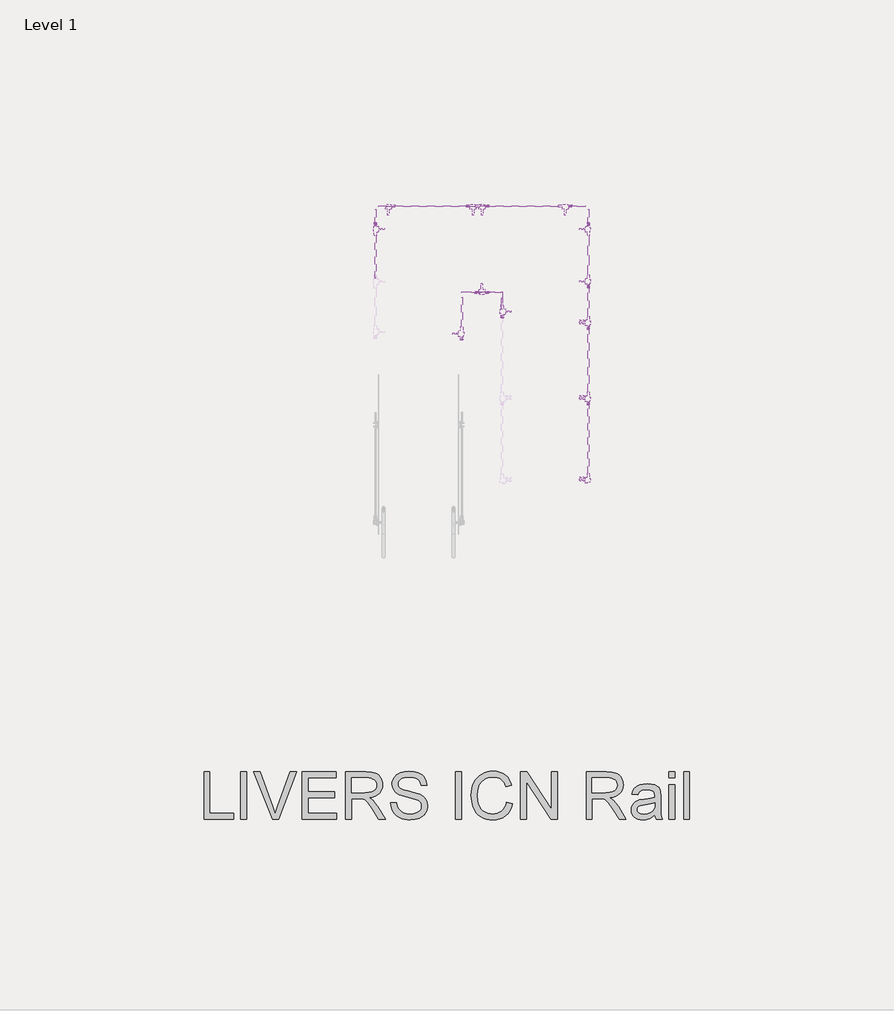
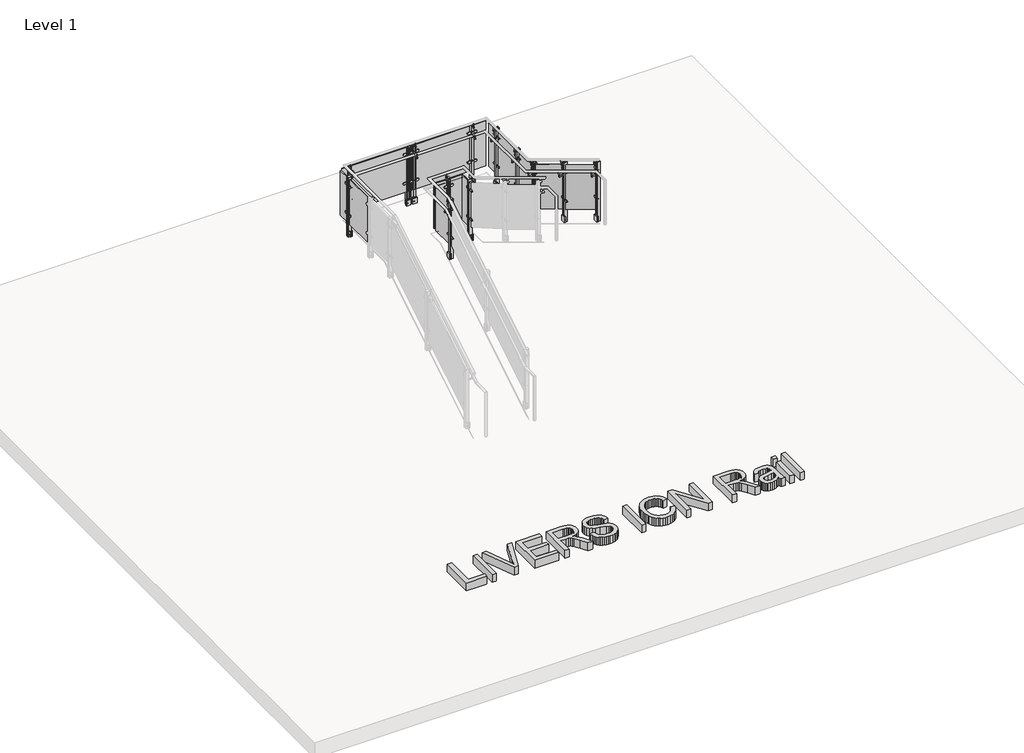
# One storey, part 2 of 2: 18 proxies.
"""IFC4 building model written with IfcOpenShell, lengths in millimetres."""

from ifc_helpers import new_model, si_unit, origin, origin_with_axes, place, context, project, spatial, polyline, outline, extrude, transform, mapped, element, save
from components import building_element_proxy_cf4448e7, building_element_proxy_ce7cafca, building_element_proxy_dbcacdc5, building_element_proxy_7167c951, building_element_proxy_159b8cce, building_element_proxy_f6dfaf89, building_element_proxy_994b1a2f, building_element_proxy_2015c6e3, building_element_proxy_9afc2005, building_element_proxy_c150a887, building_element_proxy_dcb49e08, building_element_proxy_6c2d3cb4, building_element_proxy_b0592f50, building_element_proxy_ea71b500, building_element_proxy_5a8c780e, building_element_proxy_f1ad55b6, building_element_proxy_80f81ed7, building_element_proxy_1b5f86b6, building_element_proxy_7817a10f

model = new_model("IFC4")

# Units and contexts
model_context = context("Model", 3, world=origin())
ifc_project = project(units=[si_unit("LENGTHUNIT", "METRE", prefix="MILLI")], contexts=[model_context])

# Site, building, storey
site = spatial("IfcSite", under=ifc_project)
building = spatial("IfcBuilding", under=site)
storey = spatial("IfcBuildingStorey", under=building, Name="Level 1", Elevation=0.0)

# Proxies
placement = place(None, origin())
building_element_proxy_shape = building_element_proxy_cf4448e7(model_context)
element("IfcBuildingElementProxy", 1, Name="LIVERS_ICN - Glass Panel : LIVERS_ICN - Glass Panel", ObjectType="LIVERS_ICN - Glass Panel : LIVERS_ICN - Glass Panel", at=placement, inside=storey, context=model_context, shape_type="MappedRepresentation", body=[
    mapped(building_element_proxy_shape, transform((31793.4848834, -9750.5450361, 1680.6127155), x_axis=(-1.0, 0.0, 0.0), y_axis=(0.0, -1.0, 0.0), z_axis=(0.0, 0.0, 1.0))),
])
building_element_proxy_2_shape = building_element_proxy_ce7cafca(model_context)
element("IfcBuildingElementProxy", 2, Name="LIVERS_ICN - Glass Panel : LIVERS_ICN - Glass Panel", ObjectType="LIVERS_ICN - Glass Panel : LIVERS_ICN - Glass Panel", at=placement, inside=storey, context=model_context, shape_type="MappedRepresentation", body=[
    mapped(building_element_proxy_2_shape, transform((31312.1560196, -10503.6773073, 1680.6127155), x_axis=(0.0, 1.0, 0.0), y_axis=(-1.0, 0.0, 0.0), z_axis=(0.0, 0.0, 1.0))),
])
building_element_proxy_3_shape = building_element_proxy_dbcacdc5(model_context)
element("IfcBuildingElementProxy", 3, Name="LIVERS_ICN - Glass Panel : LIVERS_ICN - Glass Panel", ObjectType="LIVERS_ICN - Glass Panel : LIVERS_ICN - Glass Panel", at=placement, inside=storey, context=model_context, shape_type="MappedRepresentation", body=[
    mapped(building_element_proxy_3_shape, transform((29702.5380155, -9450.042295, 1680.6127155), x_axis=(0.0, 1.0, 0.0), y_axis=(-1.0, 0.0, 0.0), z_axis=(0.0, 0.0, 1.0))),
])
building_element_proxy_4_shape = building_element_proxy_7167c951(model_context)
element("IfcBuildingElementProxy", 4, Name="LIVERS_ICN - Glass Panel : LIVERS_ICN - Glass Panel", ObjectType="LIVERS_ICN - Glass Panel : LIVERS_ICN - Glass Panel", at=placement, inside=storey, context=model_context, shape_type="MappedRepresentation", body=[
    mapped(building_element_proxy_4_shape, transform((29173.8470175, -8734.5450361, 1680.6127155), x_axis=(1.0, 0.0, 0.0), y_axis=(0.0, 1.0, 0.0), z_axis=(0.0, 0.0, 1.0))),
])
building_element_proxy_5_shape = building_element_proxy_159b8cce(model_context)
element("IfcBuildingElementProxy", 5, Name="LIVERS_ICN - Glass Panel : LIVERS_ICN - Glass Panel", ObjectType="LIVERS_ICN - Glass Panel : LIVERS_ICN - Glass Panel", at=placement, inside=storey, context=model_context, shape_type="MappedRepresentation", body=[
    mapped(building_element_proxy_5_shape, transform((31586.8470175, -8734.5450361, 1680.6127155), x_axis=(1.0, 0.0, 0.0), y_axis=(0.0, 1.0, 0.0), z_axis=(0.0, 0.0, 1.0))),
])
building_element_proxy_6_shape = building_element_proxy_f6dfaf89(model_context)
element("IfcBuildingElementProxy", 6, Name="LIVERS_ICN - Glass Panel : LIVERS_ICN - Glass Panel", ObjectType="LIVERS_ICN - Glass Panel : LIVERS_ICN - Glass Panel", at=placement, inside=storey, context=model_context, shape_type="MappedRepresentation", body=[
    mapped(building_element_proxy_6_shape, transform((32328.1560196, -8245.3529426, 1680.6127155), x_axis=(0.0, -1.0, 0.0), y_axis=(1.0, 0.0, 0.0), z_axis=(0.0, 0.0, 1.0))),
])
building_element_proxy_7_shape = building_element_proxy_994b1a2f(model_context)
building_element_proxy_8_shape = building_element_proxy_2015c6e3(model_context)
element("IfcBuildingElementProxy", 7, Name="LIVERS_ICN - Glass Panel : LIVERS_ICN - Glass Panel", ObjectType="LIVERS_ICN - Glass Panel : LIVERS_ICN - Glass Panel", at=placement, inside=storey, context=model_context, shape_type="MappedRepresentation", body=[
    mapped(building_element_proxy_7_shape, transform((29826.7870792, -8734.5450361, 1680.6127155), x_axis=(1.0, 0.0, 0.0), y_axis=(0.0, 1.0, 0.0), z_axis=(0.0, 0.0, 1.0))),
    mapped(building_element_proxy_8_shape, transform((29826.7870792, -8734.5450361, 1680.6127155), x_axis=(1.0, 0.0, 0.0), y_axis=(0.0, 1.0, 0.0), z_axis=(0.0, 0.0, 1.0))),
])
building_element_proxy_9_shape = building_element_proxy_9afc2005(model_context)
element("IfcBuildingElementProxy", 8, Name="LIVERS_ICN - Glass Panel : LIVERS_ICN - Glass Panel", ObjectType="LIVERS_ICN - Glass Panel : LIVERS_ICN - Glass Panel", at=placement, inside=storey, context=model_context, shape_type="MappedRepresentation", body=[
    mapped(building_element_proxy_9_shape, transform((31624.9470175, -9750.5450361, 1680.6127155), x_axis=(-1.0, 0.0, 0.0), y_axis=(0.0, -1.0, 0.0), z_axis=(0.0, 0.0, 1.0))),
])
element("IfcBuildingElementProxy", 9, Name="LIVERS_ICN - Glass Panel : LIVERS_ICN - Glass Panel", ObjectType="LIVERS_ICN - Glass Panel : LIVERS_ICN - Glass Panel", at=placement, inside=storey, context=model_context, shape_type="MappedRepresentation", body=[
    mapped(building_element_proxy_9_shape, transform((31312.1560196, -10503.2065165, 1680.6127155), x_axis=(0.0, 1.0, 0.0), y_axis=(-1.0, 0.0, 0.0), z_axis=(0.0, 0.0, 1.0))),
])
building_element_proxy_10_shape = building_element_proxy_c150a887(model_context)
element("IfcBuildingElementProxy", 10, Name="LIVERS_ICN - Glass Panel : LIVERS_ICN - Glass Panel", ObjectType="LIVERS_ICN - Glass Panel : LIVERS_ICN - Glass Panel", at=placement, inside=storey, context=model_context, shape_type="MappedRepresentation", body=[
    mapped(building_element_proxy_10_shape, transform((31516.9970175, -9750.5450361, 1680.6127155), x_axis=(-1.0, 0.0, 0.0), y_axis=(0.0, -1.0, 0.0), z_axis=(0.0, 0.0, 1.0))),
])
building_element_proxy_11_shape = building_element_proxy_dcb49e08(model_context)
element("IfcBuildingElementProxy", 11, Name="LIVERS_ICN - Glass Panel : LIVERS_ICN - Glass Panel", ObjectType="LIVERS_ICN - Glass Panel : LIVERS_ICN - Glass Panel", at=placement, inside=storey, context=model_context, shape_type="MappedRepresentation", body=[
    mapped(building_element_proxy_11_shape, transform((30718.5380155, -9519.1808052, 1680.6127155), x_axis=(0.0, -1.0, 0.0), y_axis=(1.0, 0.0, 0.0), z_axis=(0.0, 0.0, 1.0))),
])
building_element_proxy_12_shape = building_element_proxy_6c2d3cb4(model_context)
element("IfcBuildingElementProxy", 12, Name="LIVERS_ICN - Glass Panel : LIVERS_ICN - Glass Panel", ObjectType="LIVERS_ICN - Glass Panel : LIVERS_ICN - Glass Panel", at=placement, inside=storey, context=model_context, shape_type="MappedRepresentation", body=[
    mapped(building_element_proxy_12_shape, transform((29702.5380155, -9725.7679028, 1680.6127155), x_axis=(0.0, 1.0, 0.0), y_axis=(-1.0, 0.0, 0.0), z_axis=(0.0, 0.0, 1.0))),
])
building_element_proxy_13_shape = building_element_proxy_b0592f50(model_context)
element("IfcBuildingElementProxy", 13, Name="LIVERS_ICN - Glass Panel : LIVERS_ICN - Glass Panel", ObjectType="LIVERS_ICN - Glass Panel : LIVERS_ICN - Glass Panel", at=placement, inside=storey, context=model_context, shape_type="MappedRepresentation", body=[
    mapped(building_element_proxy_13_shape, transform((32328.1560196, -10953.8956035, 2589.3229662), x_axis=(0.0, -1.0, 0.0), y_axis=(1.0, 0.0, 0.0), z_axis=(0.0, 0.0, 1.0))),
])
building_element_proxy_14_shape = building_element_proxy_ea71b500(model_context)
element("IfcBuildingElementProxy", 14, Name="LIVERS_ICN - Glass Panel : LIVERS_ICN - Glass Panel", ObjectType="LIVERS_ICN - Glass Panel : LIVERS_ICN - Glass Panel", at=placement, inside=storey, context=model_context, shape_type="MappedRepresentation", body=[
    mapped(building_element_proxy_14_shape, transform((32328.1560196, -10106.5123662, 2075.7573678), x_axis=(0.0, -1.0, 0.0), y_axis=(1.0, 0.0, 0.0), z_axis=(0.0, 0.0, 1.0))),
])
building_element_proxy_15_shape = building_element_proxy_5a8c780e(model_context)
element("IfcBuildingElementProxy", 15, Name="LIVERS_ICN - Glass Panel : LIVERS_ICN - Glass Panel", ObjectType="LIVERS_ICN - Glass Panel : LIVERS_ICN - Glass Panel", at=placement, inside=storey, context=model_context, shape_type="MappedRepresentation", body=[
    mapped(building_element_proxy_15_shape, transform((32328.1560196, -9351.8209311, 1680.6127155), x_axis=(0.0, -1.0, 0.0), y_axis=(1.0, 0.0, 0.0), z_axis=(0.0, 0.0, 1.0))),
])
building_element_proxy_16_shape = building_element_proxy_f1ad55b6(model_context)
building_element_proxy_17_shape = building_element_proxy_80f81ed7(model_context)
element("IfcBuildingElementProxy", 16, Name="LIVERS_ICN - Glass Panel : LIVERS_ICN - Glass Panel", ObjectType="LIVERS_ICN - Glass Panel : LIVERS_ICN - Glass Panel", at=placement, inside=storey, context=model_context, shape_type="MappedRepresentation", body=[
    mapped(building_element_proxy_16_shape, transform((32328.1560196, -8728.5652656, 1680.6127155), x_axis=(0.0, -1.0, 0.0), y_axis=(1.0, 0.0, 0.0), z_axis=(0.0, 0.0, 1.0))),
    mapped(building_element_proxy_17_shape, transform((32328.1560196, -8728.5652656, 1680.6127155), x_axis=(0.0, -1.0, 0.0), y_axis=(1.0, 0.0, 0.0), z_axis=(0.0, 0.0, 1.0))),
])
building_element_proxy_18_shape = building_element_proxy_1b5f86b6(model_context)
building_element_proxy_19_shape = building_element_proxy_7817a10f(model_context)
element("IfcBuildingElementProxy", 17, Name="LIVERS_ICN - Glass Panel : LIVERS_ICN - Glass Panel", ObjectType="LIVERS_ICN - Glass Panel : LIVERS_ICN - Glass Panel", at=placement, inside=storey, context=model_context, shape_type="MappedRepresentation", body=[
    mapped(building_element_proxy_18_shape, transform((30855.4870792, -8734.5450361, 1680.6127155), x_axis=(1.0, 0.0, 0.0), y_axis=(0.0, 1.0, 0.0), z_axis=(0.0, 0.0, 1.0))),
    mapped(building_element_proxy_19_shape, transform((30855.4870792, -8734.5450361, 1680.6127155), x_axis=(1.0, 0.0, 0.0), y_axis=(0.0, 1.0, 0.0), z_axis=(0.0, 0.0, 1.0))),
])
element("IfcBuildingElementProxy", 18, Name="24\" Arial", ObjectType="24\" Arial", at=placement, inside=storey, context=model_context, shape_type="SweptSolid", body=[
    extrude(outline(polyline([(27482.9841583, -16480.0816777), (27482.9841583, -15879.8601392), (27558.0118506, -15879.8601392), (27558.0118506, -16405.0539854), (27858.1226198, -16405.0539854), (27858.1226198, -16480.0816777), (27482.9841583, -16480.0816777)])), origin_with_axes(), (0.0, 0.0, 1.0), 152.4),
    extrude(outline(polyline([(27951.9072352, -16480.0816777), (27951.9072352, -15879.8601392), (28026.9349275, -15879.8601392), (28026.9349275, -16480.0816777), (27951.9072352, -16480.0816777)])), origin_with_axes(), (0.0, 0.0, 1.0), 152.4),
    extrude(outline(polyline([(28354.3018506, -16480.0816777), (28115.4441583, -15879.8601392), (28195.7472352, -15879.8601392), (28355.6206967, -16312.2951392), (28388.0056967, -16409.7432161), (28419.9510813, -16312.2951392), (28580.2641583, -15879.8601392), (28660.5672352, -15879.8601392), (28431.8206967, -16480.0816777), (28354.3018506, -16480.0816777)])), origin_with_axes(), (0.0, 0.0, 1.0), 152.4),
    extrude(outline(polyline([(28730.3195429, -16480.0816777), (28730.3195429, -15879.8601392), (29161.7287737, -15879.8601392), (29161.7287737, -15954.8878315), (28805.3472352, -15954.8878315), (28805.3472352, -16133.0786007), (29142.9718506, -16133.0786007), (29142.9718506, -16208.106293), (28805.3472352, -16208.106293), (28805.3472352, -16405.0539854), (29171.1072352, -16405.0539854), (29171.1072352, -16480.0816777), (28730.3195429, -16480.0816777)])), origin_with_axes(), (0.0, 0.0, 1.0), 152.4),
    extrude(outline(polyline([(29283.6487737, -16480.0816777), (29283.6487737, -15879.8601392), (29542.2891583, -15879.8601392), (29611.803341, -15883.9082642), (29662.3774275, -15896.0526392), (29681.8945188, -15905.7058604), (29699.3417544, -15918.4730238), (29714.7191342, -15934.3541296), (29728.0266583, -15953.3491777), (29738.7651799, -15974.4369781), (29746.4355525, -15996.5963411), (29751.0377761, -16019.8272666), (29752.5718506, -16044.1297546), (29750.0303241, -16074.9577834), (29742.4057448, -16103.2580238), (29729.6981126, -16129.0304757), (29711.9074275, -16152.2751392), (29688.8047232, -16172.2501632), (29660.1610333, -16188.2136969), (29625.9763578, -16200.1657402), (29586.2506967, -16208.106293), (29610.9790621, -16224.2621584), (29628.893389, -16240.1982161), (29659.6298313, -16276.6496584), (29689.7068506, -16317.4239854), (29789.7926198, -16480.0816777), (29702.6022352, -16480.0816777), (29624.4972352, -16355.6705238), (29568.0799275, -16273.3159084), (29547.1066102, -16249.301918), (29528.4412737, -16234.4099469), (29492.7591583, -16220.1224469), (29449.2372352, -16217.4847546), (29358.676466, -16217.4847546), (29358.676466, -16480.0816777), (29283.6487737, -16480.0816777)]), holes=[polyline([(29358.676466, -16142.4570623), (29526.6095429, -16142.4570623), (29574.839014, -16139.8010527), (29612.2612737, -16131.8330238), (29640.4332929, -16118.0217738), (29660.9120429, -16097.8361007), (29673.3861294, -16073.4191296), (29677.5441583, -16046.9139854), (29675.5613097, -16027.7266055), (29669.612764, -16010.3160046), (29659.6985212, -15994.6821825), (29645.8185813, -15980.8251392), (29627.6523914, -15969.4775671), (29604.8793987, -15961.3721584), (29577.499603, -15956.5089132), (29545.5130044, -15954.8878315), (29358.676466, -15954.8878315), (29358.676466, -16142.4570623)])]), origin_with_axes(), (0.0, 0.0, 1.0), 152.4),
    extrude(outline(polyline([(29855.7349275, -16273.7555238), (29930.7626198, -16273.7555238), (29939.3717544, -16315.3907642), (29954.941466, -16348.8564854), (29979.230216, -16375.4165815), (30013.996466, -16396.3349469), (30056.4926198, -16409.9080719), (30103.9710813, -16414.4324469), (30145.7711775, -16411.0071104), (30182.3691583, -16400.7311007), (30212.0248794, -16384.4653315), (30232.9981967, -16363.0707161), (30245.4722833, -16338.5072065), (30249.6303121, -16312.7347546), (30246.5163698, -16287.6217257), (30237.1745429, -16265.9157161), (30218.1978121, -16247.396918), (30186.1791583, -16231.8455238), (30076.9347352, -16203.1972546), (30005.2224756, -16184.2388411), (29959.3376198, -16166.196293), (29921.9886294, -16140.955043), (29895.5201198, -16110.3651392), (29879.7489179, -16075.0860046), (29874.4918506, -16035.7770623), (29876.1175116, -16013.4345262), (29880.9944948, -15991.8338411), (29889.1228001, -15970.975007), (29900.5024275, -15950.8580238), (29915.0051559, -15932.3025911), (29932.502764, -15916.1284084), (29952.995252, -15902.3354757), (29976.4826198, -15890.923793), (30029.2731006, -15875.5922065), (30087.7053121, -15870.4816777), (30151.0099275, -15875.8303315), (30206.401466, -15891.876293), (30230.635264, -15903.8283363), (30251.9016583, -15918.2898507), (30270.2006487, -15935.2608363), (30285.5322352, -15954.741293), (30297.7773554, -15976.1633844), (30306.8169467, -15998.9592738), (30312.6510092, -16023.1289613), (30315.2795429, -16048.6724469), (30240.2518506, -16048.6724469), (30235.2329083, -16024.7317257), (30226.4772352, -16003.9049469), (30213.9848313, -15986.1921104), (30197.7556967, -15971.5932161), (30177.4875958, -15960.1815334), (30152.8782929, -15952.0303315), (30123.9277881, -15947.1396104), (30090.6360813, -15945.50937), (30056.2819708, -15947.121293), (30026.9284852, -15951.9570623), (30002.5756246, -15960.0166777), (29983.223389, -15971.3001392), (29968.4779563, -15984.8641055), (29957.9455044, -15999.7652354), (29951.6260333, -16016.0035286), (29949.5195429, -16033.5789854), (29951.0124035, -16048.6999229), (29955.4909852, -16062.4104277), (29962.9552881, -16074.7104998), (29973.4053121, -16085.6001392), (29989.8542544, -16095.9127834), (30015.7549275, -16106.3353315), (30095.911466, -16127.5101392), (30178.6324275, -16147.622543), (30228.6753121, -16165.1705238), (30271.4462256, -16192.390043), (30287.9821751, -16208.3902113), (30301.2851198, -16225.9839854), (30311.5107568, -16245.0797786), (30318.8147833, -16265.5860046), (30324.6580044, -16310.8297546), (30322.9773914, -16334.2988051), (30317.9355525, -16357.0809565), (30309.5324876, -16379.1762089), (30297.7681967, -16400.5845623), (30282.8487496, -16420.4771584), (30264.980216, -16438.0251392), (30244.1625958, -16453.2285046), (30220.395889, -16466.0872546), (30194.3715741, -16476.3128916), (30166.7811294, -16483.616918), (30106.9018506, -16489.4601392), (30068.5225116, -16487.8848507), (30033.3944948, -16483.1589854), (30001.5178001, -16475.282543), (29972.8924275, -16464.2555238), (29947.3443626, -16450.0596104), (29924.699591, -16432.6764854), (29904.9581126, -16412.1061488), (29888.1199275, -16388.3486007), (29874.5559612, -16362.173168), (29864.637139, -16334.3491777), (29858.3634612, -16304.8766296), (29855.7349275, -16273.7555238)])), origin_with_axes(), (0.0, 0.0, 1.0), 152.4),
    extrude(outline(polyline([(30681.0395429, -16480.0816777), (30681.0395429, -15879.8601392), (30756.0672352, -15879.8601392), (30756.0672352, -16480.0816777), (30681.0395429, -16480.0816777)])), origin_with_axes(), (0.0, 0.0, 1.0), 152.4),
    extrude(outline(polyline([(31328.153389, -16266.7216777), (31403.1810813, -16286.0647546), (31388.3349035, -16332.7235166), (31368.5613698, -16373.4932642), (31343.8604804, -16408.3739974), (31314.2322352, -16437.3657161), (31280.345216, -16460.1570262), (31242.8680044, -16476.4365334), (31201.8006006, -16486.2042378), (31157.1430044, -16489.4601392), (31111.3909491, -16486.9964613), (31070.1174756, -16479.6054277), (31033.3225837, -16467.2870382), (31001.0062737, -16450.041293), (30972.7243506, -16428.1246344), (30948.0326198, -16401.7935046), (30926.9310813, -16371.0479036), (30909.4197352, -16335.8878315), (30895.6680164, -16297.8336248), (30885.8453602, -16258.40562), (30879.9517664, -16217.6038171), (30877.9872352, -16175.4282161), (30880.2082087, -16130.1753075), (30886.8711294, -16087.90812), (30897.9759972, -16048.6266536), (30913.5228121, -16012.3309084), (30933.1635453, -15979.6207762), (30956.5501679, -15951.0961488), (30983.6826799, -15926.7570262), (31014.5610813, -15906.6034084), (31048.1367063, -15890.8001512), (31083.360889, -15879.5121104), (31120.2336294, -15872.7392858), (31158.7549275, -15870.4816777), (31201.6678001, -15873.4032882), (31241.0179563, -15882.16812), (31276.8053962, -15896.7761729), (31309.0301198, -15917.2274469), (31337.1609251, -15942.9815815), (31360.6666102, -15973.4982161), (31379.5471751, -16008.7773507), (31393.8026198, -16048.8189854), (31318.7749275, -16066.6966777), (31306.960264, -16037.1920743), (31292.7643506, -16011.9828796), (31276.1871871, -15991.0690935), (31257.2287737, -15974.4507161), (31235.7792063, -15961.7888772), (31211.7285813, -15952.7447065), (31185.0768987, -15947.3182041), (31155.8241583, -15945.50937), (31122.1661054, -15947.5151152), (31091.3838698, -15953.5323507), (31063.4774515, -15963.5610767), (31038.4468506, -15977.601293), (31016.6080405, -15995.0210527), (30998.2769948, -16015.1884084), (30983.4537136, -16038.1033604), (30972.1381967, -16063.7659084), (30957.7957448, -16118.6811969), (30953.0149275, -16175.2816777), (30958.6749756, -16244.59437), (30965.7500357, -16275.733793), (30975.6551198, -16304.5286007), (30988.5505044, -16330.4063772), (31004.596466, -16352.7947065), (31023.7930044, -16371.6935887), (31046.1401198, -16387.1030238), (31070.5525116, -16399.0596464), (31095.9448794, -16407.6000911), (31122.3172232, -16412.7243579), (31149.6695429, -16414.4324469), (31182.2880886, -16412.1061488), (31212.2964179, -16405.1272546), (31239.6945309, -16393.4957642), (31264.4824275, -16377.2116777), (31286.0739539, -16356.3482642), (31303.8829563, -16330.978793), (31317.9094347, -16301.1032642), (31328.153389, -16266.7216777)])), origin_with_axes(), (0.0, 0.0, 1.0), 152.4),
    extrude(outline(polyline([(31506.3441583, -16480.0816777), (31506.3441583, -15879.8601392), (31586.6472352, -15879.8601392), (31900.2395429, -16355.3774469), (31900.2395429, -15879.8601392), (31975.2672352, -15879.8601392), (31975.2672352, -16480.0816777), (31894.9641583, -16480.0816777), (31581.3718506, -16004.4178315), (31581.3718506, -16480.0816777), (31506.3441583, -16480.0816777)])), origin_with_axes(), (0.0, 0.0, 1.0), 152.4),
    extrude(outline(polyline([(32341.0272352, -16480.0816777), (32341.0272352, -15879.8601392), (32599.6676198, -15879.8601392), (32669.1818025, -15883.9082642), (32719.755889, -15896.0526392), (32739.2729804, -15905.7058604), (32756.720216, -15918.4730238), (32772.0975958, -15934.3541296), (32785.4051198, -15953.3491777), (32796.1436414, -15974.4369781), (32803.814014, -15996.5963411), (32808.4162376, -16019.8272666), (32809.9503121, -16044.1297546), (32807.4087857, -16074.9577834), (32799.7842063, -16103.2580238), (32787.0765741, -16129.0304757), (32769.285889, -16152.2751392), (32746.1831847, -16172.2501632), (32717.5394948, -16188.2136969), (32683.3548193, -16200.1657402), (32643.6291583, -16208.106293), (32668.3575237, -16224.2621584), (32686.2718506, -16240.1982161), (32717.0082929, -16276.6496584), (32747.0853121, -16317.4239854), (32847.1710813, -16480.0816777), (32759.9806967, -16480.0816777), (32681.8756967, -16355.6705238), (32625.458389, -16273.3159084), (32604.4850717, -16249.301918), (32585.8197352, -16234.4099469), (32550.1376198, -16220.1224469), (32506.6156967, -16217.4847546), (32416.0549275, -16217.4847546), (32416.0549275, -16480.0816777), (32341.0272352, -16480.0816777)]), holes=[polyline([(32416.0549275, -16142.4570623), (32583.9880044, -16142.4570623), (32632.2174756, -16139.8010527), (32669.6397352, -16131.8330238), (32697.8117544, -16118.0217738), (32718.2905044, -16097.8361007), (32730.764591, -16073.4191296), (32734.9226198, -16046.9139854), (32732.9397712, -16027.7266055), (32726.9912256, -16010.3160046), (32717.0769828, -15994.6821825), (32703.1970429, -15980.8251392), (32685.030853, -15969.4775671), (32662.2578602, -15961.3721584), (32634.8780645, -15956.5089132), (32602.891466, -15954.8878315), (32416.0549275, -15954.8878315), (32416.0549275, -16142.4570623)])]), origin_with_axes(), (0.0, 0.0, 1.0), 152.4),
    extrude(outline(polyline([(33213.2241583, -16423.8109084), (33177.3771871, -16454.5473507), (33140.4678121, -16474.6597546), (33101.6534371, -16485.760043), (33060.091466, -16489.4601392), (33026.6852761, -16487.2345863), (32997.3913217, -16480.5579277), (32972.209603, -16469.4301632), (32951.1401198, -16453.851293), (32934.5034251, -16434.8104517), (32922.6200717, -16413.2967738), (32915.4900597, -16389.3102594), (32913.113389, -16362.8509084), (32916.7035813, -16331.74812), (32927.4741583, -16303.5028315), (32944.0879563, -16279.3239854), (32965.2078121, -16260.4205238), (32990.027764, -16246.1330238), (33017.7418506, -16235.8020623), (33082.658389, -16224.5186007), (33159.3712737, -16212.6489854), (33212.7845429, -16198.7278315), (33213.2241583, -16182.0224469), (33208.0586775, -16148.5384084), (33201.6018265, -16136.1375911), (33192.5622352, -16126.6309084), (33176.9375717, -16117.142543), (33157.905889, -16110.3651392), (33109.621466, -16104.9432161), (33064.9272352, -16108.5517257), (33033.7145429, -16119.3772546), (33012.4298313, -16139.3980719), (32997.5195429, -16170.5924469), (32922.4918506, -16161.2139854), (32935.5154563, -16120.1832161), (32954.9501198, -16087.9447546), (32982.6092544, -16063.2896584), (33020.3062737, -16045.0089854), (33066.4109371, -16033.6888892), (33119.2930044, -16029.9155238), (33170.0136294, -16033.2492738), (33210.2201198, -16043.2505238), (33240.535264, -16058.2890334), (33261.5818506, -16076.7345623), (33275.539639, -16099.5396104), (33284.588389, -16127.6566777), (33288.2518506, -16193.3059084), (33288.2518506, -16286.6509084), (33292.0618506, -16416.99687), (33297.7035813, -16449.2170142), (33307.0087737, -16480.0816777), (33231.9810813, -16480.0816777), (33219.9649275, -16453.9978315), (33213.2241583, -16423.8109084)]), holes=[polyline([(33213.2241583, -16273.7555238), (33162.8149275, -16286.2479277), (33092.183389, -16296.7620623), (33027.6331967, -16308.9247546), (33010.8362256, -16317.2408123), (32998.3987737, -16328.7074469), (32990.7055044, -16342.4454277), (32988.1410813, -16357.5755238), (32993.7278602, -16379.8860046), (33010.4881967, -16398.1666777), (33038.0557448, -16410.3660046), (33076.0641583, -16414.4324469), (33116.3622352, -16409.9447065), (33151.9710813, -16396.4814854), (33180.8391583, -16376.6438411), (33200.9149275, -16353.0328315), (33209.817139, -16328.7074469), (33212.7845429, -16295.0036007), (33213.2241583, -16273.7555238)])]), origin_with_axes(), (0.0, 0.0, 1.0), 152.4),
    extrude(outline(polyline([(33391.4149275, -15954.8878315), (33391.4149275, -15879.8601392), (33466.4426198, -15879.8601392), (33466.4426198, -15954.8878315), (33391.4149275, -15954.8878315)])), origin_with_axes(), (0.0, 0.0, 1.0), 152.4),
    extrude(outline(polyline([(33391.4149275, -16480.0816777), (33391.4149275, -16039.2939854), (33466.4426198, -16039.2939854), (33466.4426198, -16480.0816777), (33391.4149275, -16480.0816777)])), origin_with_axes(), (0.0, 0.0, 1.0), 152.4),
    extrude(outline(polyline([(33578.9841583, -16480.0816777), (33578.9841583, -15879.8601392), (33654.0118506, -15879.8601392), (33654.0118506, -16480.0816777), (33578.9841583, -16480.0816777)])), origin_with_axes(), (0.0, 0.0, 1.0), 152.4),
])

save(model, "model.ifc")
